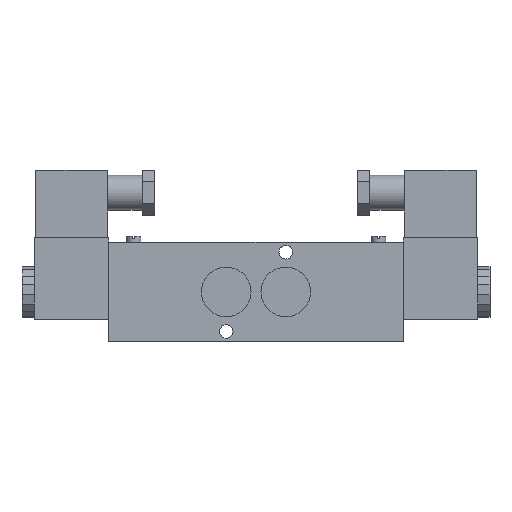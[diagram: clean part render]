
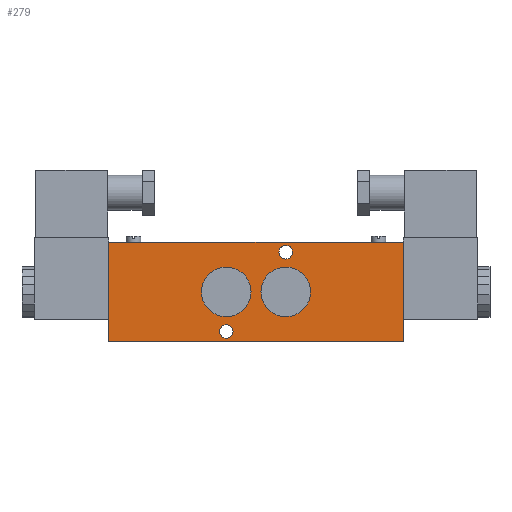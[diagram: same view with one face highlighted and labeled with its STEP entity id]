
A CAD part, top view. The second image highlights one B-rep face of the part: STEP entity #279.
In plain terms, the highlighted planar face has unit normal (0, 0, 1).
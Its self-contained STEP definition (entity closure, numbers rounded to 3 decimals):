
#279=ADVANCED_FACE('',(#849,#851,#853,#855,#857),#859,.T.);
#849=FACE_BOUND('',#850,.T.);
#850=EDGE_LOOP('',(#1670,#1671,#1672,#1673));
#851=FACE_BOUND('',#852,.T.);
#852=EDGE_LOOP('',(#1674));
#853=FACE_BOUND('',#854,.T.);
#854=EDGE_LOOP('',(#1675));
#855=FACE_BOUND('',#856,.T.);
#856=EDGE_LOOP('',(#1676));
#857=FACE_BOUND('',#858,.T.);
#858=EDGE_LOOP('',(#1677));
#859=PLANE('',#860);
#860=AXIS2_PLACEMENT_3D('',#861,#862,#863);
#861=CARTESIAN_POINT('',(-59.4,20.,13.5));
#862=DIRECTION('',(0.,0.,1.));
#863=DIRECTION('',(0.,-1.,0.));
#1670=ORIENTED_EDGE('',*,*,#2174,.T.);
#1671=ORIENTED_EDGE('',*,*,#2179,.T.);
#1672=ORIENTED_EDGE('',*,*,#2152,.F.);
#1673=ORIENTED_EDGE('',*,*,#2144,.F.);
#1674=ORIENTED_EDGE('',*,*,#2180,.T.);
#1675=ORIENTED_EDGE('',*,*,#2181,.T.);
#1676=ORIENTED_EDGE('',*,*,#2182,.T.);
#1677=ORIENTED_EDGE('',*,*,#2183,.T.);
#2144=EDGE_CURVE('',#2433,#2435,#2436,.T.);
#2152=EDGE_CURVE('',#2435,#2449,#2450,.T.);
#2174=EDGE_CURVE('',#2433,#2484,#2486,.T.);
#2179=EDGE_CURVE('',#2484,#2449,#2493,.T.);
#2180=EDGE_CURVE('',#2494,#2494,#2495,.F.);
#2181=EDGE_CURVE('',#2496,#2496,#2497,.F.);
#2182=EDGE_CURVE('',#2498,#2498,#2499,.F.);
#2183=EDGE_CURVE('',#2500,#2500,#2501,.F.);
#2433=VERTEX_POINT('',#2941);
#2435=VERTEX_POINT('',#2945);
#2436=LINE('',#2946,#2947);
#2449=VERTEX_POINT('',#2976);
#2450=LINE('',#2977,#2978);
#2484=VERTEX_POINT('',#3057);
#2486=LINE('',#3061,#3062);
#2493=LINE('',#3078,#3079);
#2494=VERTEX_POINT('',#3081);
#2495=CIRCLE('',#3082,2.75);
#2496=VERTEX_POINT('',#3086);
#2497=CIRCLE('',#3087,2.75);
#2498=VERTEX_POINT('',#3091);
#2499=CIRCLE('',#3092,10.);
#2500=VERTEX_POINT('',#3096);
#2501=CIRCLE('',#3097,10.);
#2941=CARTESIAN_POINT('',(-59.4,20.,13.5));
#2945=CARTESIAN_POINT('',(59.4,20.,13.5));
#2946=CARTESIAN_POINT('',(-59.4,20.,13.5));
#2947=VECTOR('',#2948,1.);
#2948=DIRECTION('',(1.,0.,0.));
#2976=CARTESIAN_POINT('',(59.4,-20.,13.5));
#2977=CARTESIAN_POINT('',(59.4,20.,13.5));
#2978=VECTOR('',#2979,1.);
#2979=DIRECTION('',(0.,-1.,0.));
#3057=CARTESIAN_POINT('',(-59.4,-20.,13.5));
#3061=CARTESIAN_POINT('',(-59.4,20.,13.5));
#3062=VECTOR('',#3063,1.);
#3063=DIRECTION('',(0.,-1.,0.));
#3078=CARTESIAN_POINT('',(-59.4,-20.,13.5));
#3079=VECTOR('',#3080,1.);
#3080=DIRECTION('',(1.,0.,0.));
#3081=CARTESIAN_POINT('',(-9.25,-16.,13.5));
#3082=AXIS2_PLACEMENT_3D('',#3083,#3084,#3085);
#3083=CARTESIAN_POINT('',(-12.,-16.,13.5));
#3084=DIRECTION('',(0.,0.,1.));
#3085=DIRECTION('',(1.,0.,0.));
#3086=CARTESIAN_POINT('',(14.75,16.,13.5));
#3087=AXIS2_PLACEMENT_3D('',#3088,#3089,#3090);
#3088=CARTESIAN_POINT('',(12.,16.,13.5));
#3089=DIRECTION('',(0.,0.,1.));
#3090=DIRECTION('',(1.,0.,0.));
#3091=CARTESIAN_POINT('',(-2.,0.,13.5));
#3092=AXIS2_PLACEMENT_3D('',#3093,#3094,#3095);
#3093=CARTESIAN_POINT('',(-12.,0.,13.5));
#3094=DIRECTION('',(0.,0.,1.));
#3095=DIRECTION('',(1.,0.,0.));
#3096=CARTESIAN_POINT('',(22.,0.,13.5));
#3097=AXIS2_PLACEMENT_3D('',#3098,#3099,#3100);
#3098=CARTESIAN_POINT('',(12.,0.,13.5));
#3099=DIRECTION('',(0.,0.,1.));
#3100=DIRECTION('',(1.,0.,0.));
